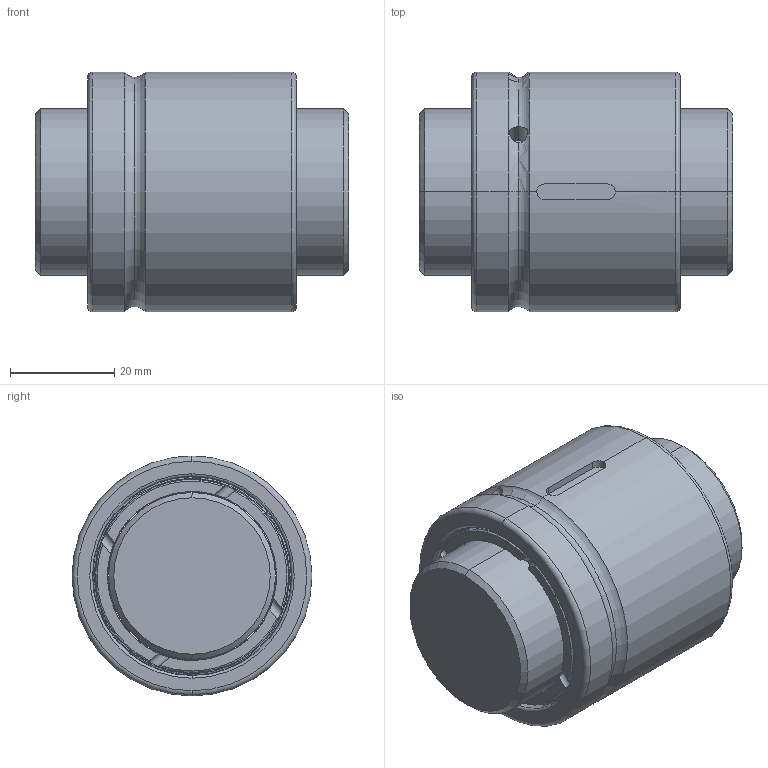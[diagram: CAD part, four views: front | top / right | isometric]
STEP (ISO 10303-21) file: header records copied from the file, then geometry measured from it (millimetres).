
FILE_DESCRIPTION (( 'STEP AP203' ), '1' );
FILE_NAME ('SCIR03204T4-C.STEP', '2020-06-17T07:37:23', ( '' ), ( '' ), 'SwSTEP 2.0', 'SolidWorks 2013', '' );
FILE_SCHEMA (( 'CONFIG_CONTROL_DESIGN' ));
Length unit declared in the file: millimetre
Products named in the file (1): SCIR03204T4-C
Bounding box: 60 x 46 x 46 mm (x, y, z)
Volume: 79050.1 mm3; surface area: 21079.1 mm2
Topology: 2 solids, 2 shells, 96 faces, 236 edges, 149 vertices
Faces by surface type: cylinder 43, torus 28, plane 21, cone 4
Entity records: 4013 total; most frequent: CARTESIAN_POINT 1694, DIRECTION 476, ORIENTED_EDGE 472, EDGE_CURVE 236, AXIS2_PLACEMENT_3D 211, VERTEX_POINT 149, CIRCLE 114, EDGE_LOOP 105
